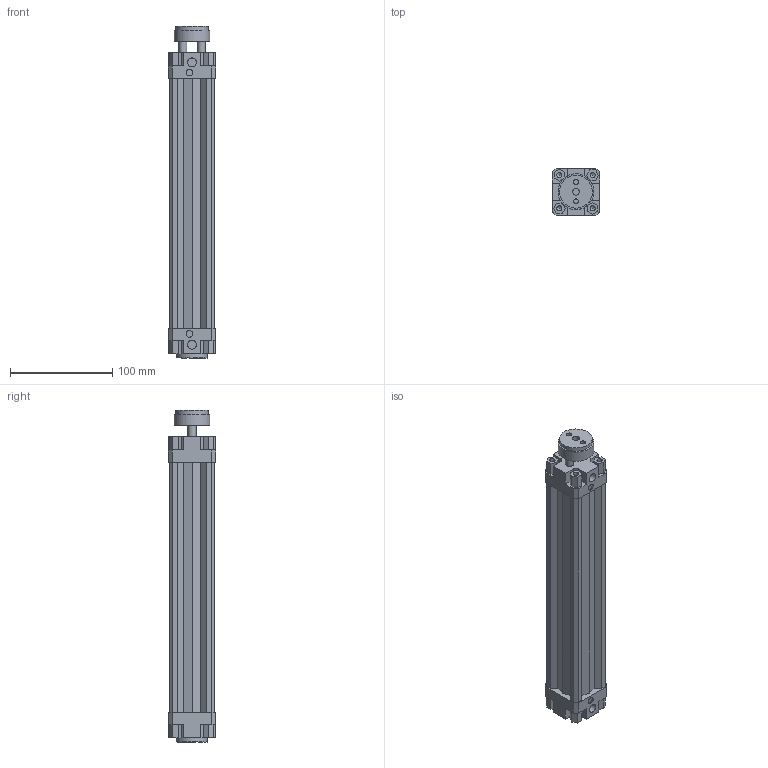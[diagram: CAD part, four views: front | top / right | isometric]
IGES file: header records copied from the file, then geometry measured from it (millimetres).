
Global section: file name: 132#_032_0200_01; native system: Autodesk Inventor 2014; preprocessor: unknown; author: A. Manieri; date: 20161006.154708; units: millimetre
Bounding box: 46 x 46 x 324 mm (x, y, z)
Volume: 321514.2 mm3; surface area: 115681.9 mm2
Topology: 2 solids, 2 shells, 187 faces, 507 edges, 343 vertices
Faces by surface type: bspline 187
